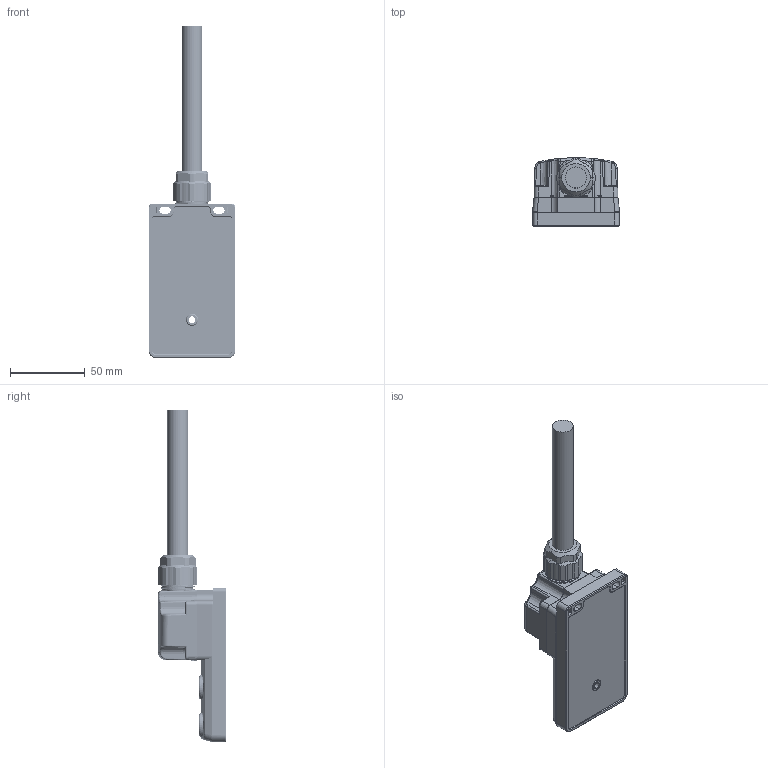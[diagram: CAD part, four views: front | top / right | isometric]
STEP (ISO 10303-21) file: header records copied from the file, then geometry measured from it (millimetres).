
FILE_DESCRIPTION((''),'2;1');
FILE_NAME('24P4SG_24P4S9_','2022-06-01T',('PC'),(''),'PRO/ENGINEER BY PARAMETRIC TECHNOLOGY CORPORATION, 2009220','PRO/ENGINEER BY PARAMETRIC TECHNOLOGY CORPORATION, 2009220','');
FILE_SCHEMA(('CONFIG_CONTROL_DESIGN'));
Products named in the file (1): 24P4SG_24P4S9_
Bounding box: 58 x 45.6 x 221.47 mm (x, y, z)
Volume: 7084.4 mm3; surface area: 57357.1 mm2
Topology: 29 solids, 42 shells, 4507 faces, 12726 edges, 8449 vertices
Faces by surface type: plane 2113, cylinder 1230, bspline 428, torus 275, cone 266, extrusion 164, sphere 20, revolution 11
Full cylindrical faces by diameter (mm): 1.5 x4, 1.6 x8
Entity records: 216541 total; most frequent: CARTESIAN_POINT 103831, ORIENTED_EDGE 25267, DIRECTION 20876, EDGE_CURVE 12710, VERTEX_POINT 8449, AXIS2_PLACEMENT_3D 7001, VECTOR 6863, LINE 6699
